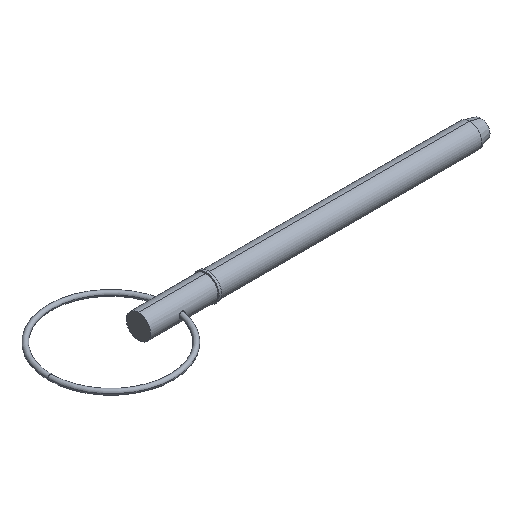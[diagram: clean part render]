
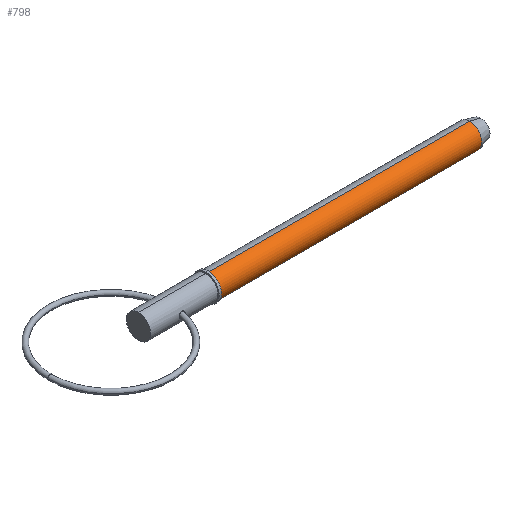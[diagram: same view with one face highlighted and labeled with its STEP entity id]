
A CAD part, isometric view. The second image highlights one B-rep face of the part: STEP entity #798.
In plain terms, the highlighted cylindrical face has radius 3.175 mm (diameter 6.35 mm), a partial arc.
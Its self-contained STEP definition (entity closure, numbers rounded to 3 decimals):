
#1 = DIRECTION ( 'NONE',  ( 1., 0., 0. ) ) ;
#4 = VERTEX_POINT ( 'NONE', #381 ) ;
#60 = CIRCLE ( 'NONE', #623, 3.175 ) ;
#81 = VERTEX_POINT ( 'NONE', #564 ) ;
#131 = ORIENTED_EDGE ( 'NONE', *, *, #962, .F. ) ;
#133 = DIRECTION ( 'NONE',  ( 1., 0., 0. ) ) ;
#141 = VERTEX_POINT ( 'NONE', #445 ) ;
#157 = LINE ( 'NONE', #603, #230 ) ;
#211 = CARTESIAN_POINT ( 'NONE',  ( 0., 0., 0. ) ) ;
#230 = VECTOR ( 'NONE', #528, 1000. ) ;
#300 = CARTESIAN_POINT ( 'NONE',  ( 0., 0., 3.175 ) ) ;
#381 = CARTESIAN_POINT ( 'NONE',  ( 18.29, 0., -3.175 ) ) ;
#387 = VECTOR ( 'NONE', #757, 1000. ) ;
#402 = EDGE_CURVE ( 'NONE', #510, #141, #981, .T. ) ;
#445 = CARTESIAN_POINT ( 'NONE',  ( 86.748, 0., 3.175 ) ) ;
#455 = CARTESIAN_POINT ( 'NONE',  ( 18.29, 0., 0. ) ) ;
#456 = ORIENTED_EDGE ( 'NONE', *, *, #461, .T. ) ;
#460 = DIRECTION ( 'NONE',  ( 0., 0., -1. ) ) ;
#461 = EDGE_CURVE ( 'NONE', #510, #4, #818, .T. ) ;
#478 = EDGE_CURVE ( 'NONE', #4, #81, #157, .T. ) ;
#510 = VERTEX_POINT ( 'NONE', #913 ) ;
#521 = AXIS2_PLACEMENT_3D ( 'NONE', #455, #1, #535 ) ;
#528 = DIRECTION ( 'NONE',  ( 1., 0., 0. ) ) ;
#530 = AXIS2_PLACEMENT_3D ( 'NONE', #211, #133, #796 ) ;
#535 = DIRECTION ( 'NONE',  ( 0., 0., -1. ) ) ;
#545 = EDGE_LOOP ( 'NONE', ( #827, #456, #673, #131 ) ) ;
#564 = CARTESIAN_POINT ( 'NONE',  ( 86.748, 0., -3.175 ) ) ;
#599 = CYLINDRICAL_SURFACE ( 'NONE', #530, 3.175 ) ;
#603 = CARTESIAN_POINT ( 'NONE',  ( 0., 0., -3.175 ) ) ;
#623 = AXIS2_PLACEMENT_3D ( 'NONE', #987, #629, #460 ) ;
#629 = DIRECTION ( 'NONE',  ( 1., 0., 0. ) ) ;
#656 = FACE_OUTER_BOUND ( 'NONE', #545, .T. ) ;
#673 = ORIENTED_EDGE ( 'NONE', *, *, #478, .T. ) ;
#757 = DIRECTION ( 'NONE',  ( 1., 0., 0. ) ) ;
#796 = DIRECTION ( 'NONE',  ( 0., 0., -1. ) ) ;
#798 = ADVANCED_FACE ( 'NONE', ( #656 ), #599, .T. ) ;
#818 = CIRCLE ( 'NONE', #521, 3.175 ) ;
#827 = ORIENTED_EDGE ( 'NONE', *, *, #402, .F. ) ;
#913 = CARTESIAN_POINT ( 'NONE',  ( 18.29, 0., 3.175 ) ) ;
#962 = EDGE_CURVE ( 'NONE', #141, #81, #60, .T. ) ;
#981 = LINE ( 'NONE', #300, #387 ) ;
#987 = CARTESIAN_POINT ( 'NONE',  ( 86.748, 0., 0. ) ) ;
